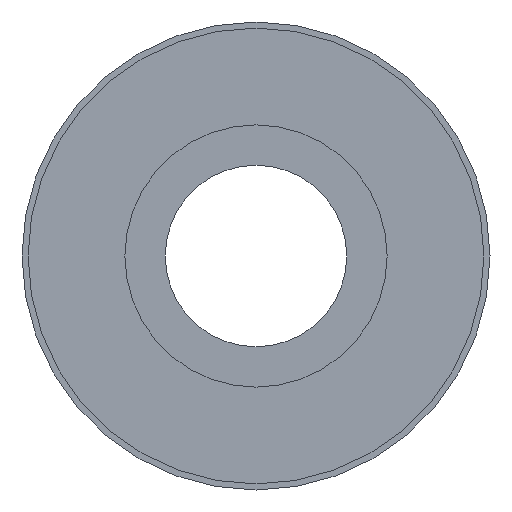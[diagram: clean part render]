
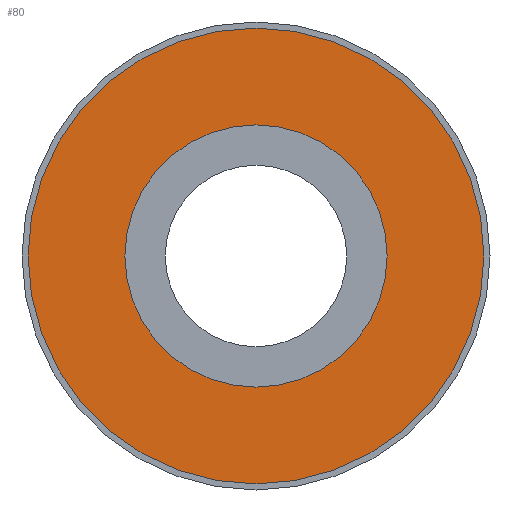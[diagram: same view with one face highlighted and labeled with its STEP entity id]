
A CAD part, left-side view. The second image highlights one B-rep face of the part: STEP entity #80.
In plain terms, the highlighted planar face has unit normal (-1, 0, 0).
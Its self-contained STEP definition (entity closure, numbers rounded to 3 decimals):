
#80 = ADVANCED_FACE( '', ( #130, #131 ), #132, .T. );
#130 = FACE_BOUND( '', #250, .T. );
#131 = FACE_OUTER_BOUND( '', #251, .T. );
#132 = PLANE( '', #252 );
#250 = EDGE_LOOP( '', ( #389 ) );
#251 = EDGE_LOOP( '', ( #390 ) );
#252 = AXIS2_PLACEMENT_3D( '', #391, #392, #393 );
#389 = ORIENTED_EDGE( '', *, *, #638, .T. );
#390 = ORIENTED_EDGE( '', *, *, #639, .F. );
#391 = CARTESIAN_POINT( '', ( 0., 11.3, 0. ) );
#392 = DIRECTION( '', ( -1., 0., 0. ) );
#393 = DIRECTION( '', ( 0., 0., 1. ) );
#638 = EDGE_CURVE( '', #715, #715, #716, .T. );
#639 = EDGE_CURVE( '', #717, #717, #718, .T. );
#715 = VERTEX_POINT( '', #846 );
#716 = CIRCLE( '', #847, 6.5 );
#717 = VERTEX_POINT( '', #848 );
#718 = CIRCLE( '', #849, 11.3 );
#846 = CARTESIAN_POINT( '', ( 0., 0., -6.5 ) );
#847 = AXIS2_PLACEMENT_3D( '', #979, #980, #981 );
#848 = CARTESIAN_POINT( '', ( 0., 0., -11.3 ) );
#849 = AXIS2_PLACEMENT_3D( '', #982, #983, #984 );
#979 = CARTESIAN_POINT( '', ( 0., 0., 0. ) );
#980 = DIRECTION( '', ( 1., 0., 0. ) );
#981 = DIRECTION( '', ( 0., 0., -1. ) );
#982 = CARTESIAN_POINT( '', ( 0., 0., 0. ) );
#983 = DIRECTION( '', ( 1., 0., 0. ) );
#984 = DIRECTION( '', ( 0., 0., -1. ) );
